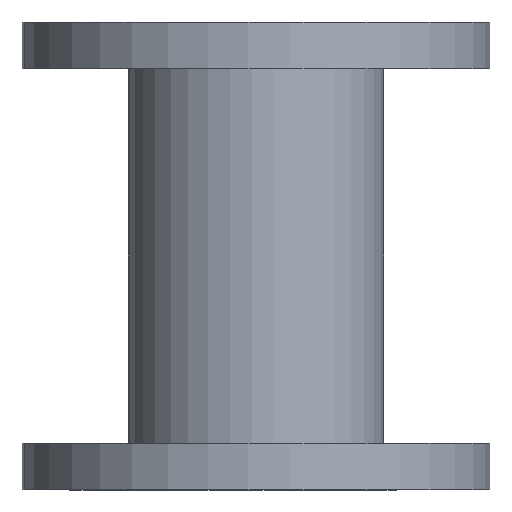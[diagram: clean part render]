
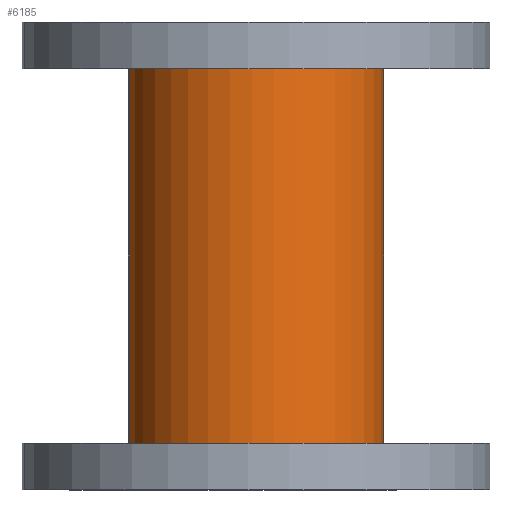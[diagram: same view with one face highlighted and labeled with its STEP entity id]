
A CAD part, front view. The second image highlights one B-rep face of the part: STEP entity #6185.
In plain terms, the highlighted cylindrical face has radius 60 mm (diameter 120 mm), a partial arc.
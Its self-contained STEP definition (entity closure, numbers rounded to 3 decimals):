
#194 = VERTEX_POINT ( 'NONE', #8365 ) ;
#519 = EDGE_LOOP ( 'NONE', ( #8554, #11833, #3246, #4598 ) ) ;
#545 = CYLINDRICAL_SURFACE ( 'NONE', #2168, 60. ) ;
#694 = VECTOR ( 'NONE', #9775, 1000. ) ;
#1049 = VERTEX_POINT ( 'NONE', #9494 ) ;
#1234 = DIRECTION ( 'NONE',  ( 0., 0., 1. ) ) ;
#1397 = CARTESIAN_POINT ( 'NONE',  ( 0., 0., 0. ) ) ;
#1526 = DIRECTION ( 'NONE',  ( 0., 0., 1. ) ) ;
#1536 = AXIS2_PLACEMENT_3D ( 'NONE', #1397, #8072, #10338 ) ;
#1920 = LINE ( 'NONE', #4937, #694 ) ;
#2168 = AXIS2_PLACEMENT_3D ( 'NONE', #9260, #1526, #4483 ) ;
#2368 = FACE_OUTER_BOUND ( 'NONE', #519, .T. ) ;
#2513 = DIRECTION ( 'NONE',  ( -1., 0., 0. ) ) ;
#3246 = ORIENTED_EDGE ( 'NONE', *, *, #5468, .T. ) ;
#4483 = DIRECTION ( 'NONE',  ( 1., 0., 0. ) ) ;
#4598 = ORIENTED_EDGE ( 'NONE', *, *, #5539, .T. ) ;
#4678 = EDGE_CURVE ( 'NONE', #1049, #6485, #10355, .T. ) ;
#4804 = AXIS2_PLACEMENT_3D ( 'NONE', #8424, #11318, #2513 ) ;
#4937 = CARTESIAN_POINT ( 'NONE',  ( 60., 0., -176. ) ) ;
#5468 = EDGE_CURVE ( 'NONE', #1049, #194, #1920, .T. ) ;
#5539 = EDGE_CURVE ( 'NONE', #194, #7078, #7074, .T. ) ;
#6185 = ADVANCED_FACE ( 'NONE', ( #2368 ), #545, .T. ) ;
#6485 = VERTEX_POINT ( 'NONE', #6908 ) ;
#6908 = CARTESIAN_POINT ( 'NONE',  ( -60., 0., -176. ) ) ;
#7074 = CIRCLE ( 'NONE', #1536, 60. ) ;
#7078 = VERTEX_POINT ( 'NONE', #11856 ) ;
#7147 = LINE ( 'NONE', #11081, #7378 ) ;
#7378 = VECTOR ( 'NONE', #1234, 1000. ) ;
#8072 = DIRECTION ( 'NONE',  ( 0., 0., -1. ) ) ;
#8365 = CARTESIAN_POINT ( 'NONE',  ( 60., 0., 0. ) ) ;
#8424 = CARTESIAN_POINT ( 'NONE',  ( 0., 0., -176. ) ) ;
#8554 = ORIENTED_EDGE ( 'NONE', *, *, #10581, .F. ) ;
#9260 = CARTESIAN_POINT ( 'NONE',  ( 0., 0., -176. ) ) ;
#9494 = CARTESIAN_POINT ( 'NONE',  ( 60., 0., -176. ) ) ;
#9775 = DIRECTION ( 'NONE',  ( 0., 0., 1. ) ) ;
#10338 = DIRECTION ( 'NONE',  ( -1., 0., 0. ) ) ;
#10355 = CIRCLE ( 'NONE', #4804, 60. ) ;
#10581 = EDGE_CURVE ( 'NONE', #6485, #7078, #7147, .T. ) ;
#11081 = CARTESIAN_POINT ( 'NONE',  ( -60., 0., -176. ) ) ;
#11318 = DIRECTION ( 'NONE',  ( 0., 0., -1. ) ) ;
#11833 = ORIENTED_EDGE ( 'NONE', *, *, #4678, .F. ) ;
#11856 = CARTESIAN_POINT ( 'NONE',  ( -60., 0., 0. ) ) ;
